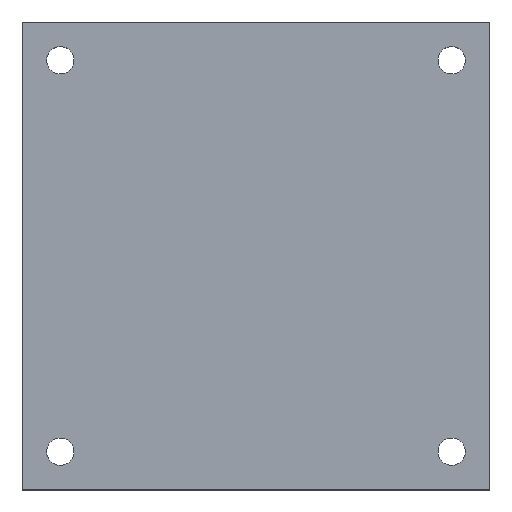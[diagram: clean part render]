
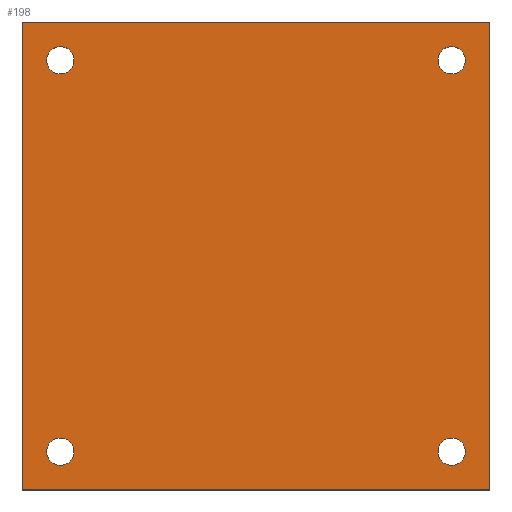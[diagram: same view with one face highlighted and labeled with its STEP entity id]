
A CAD part, top view. The second image highlights one B-rep face of the part: STEP entity #198.
In plain terms, the highlighted planar face has unit normal (0, 0, 1).
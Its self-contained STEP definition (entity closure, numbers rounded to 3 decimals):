
#42 = VERTEX_POINT('',#43);
#43 = CARTESIAN_POINT('',(55.,-55.,0.84));
#49 = EDGE_CURVE('',#42,#50,#52,.T.);
#50 = VERTEX_POINT('',#51);
#51 = CARTESIAN_POINT('',(0.,-55.,0.84));
#52 = LINE('',#53,#54);
#53 = CARTESIAN_POINT('',(55.,-55.,0.84));
#54 = VECTOR('',#55,1.);
#55 = DIRECTION('',(-1.,0.,0.));
#82 = VERTEX_POINT('',#83);
#83 = CARTESIAN_POINT('',(55.,0.,0.84));
#89 = EDGE_CURVE('',#82,#42,#90,.T.);
#90 = LINE('',#91,#92);
#91 = CARTESIAN_POINT('',(55.,0.,0.84));
#92 = VECTOR('',#93,1.);
#93 = DIRECTION('',(0.,-1.,0.));
#111 = EDGE_CURVE('',#50,#112,#114,.T.);
#112 = VERTEX_POINT('',#113);
#113 = CARTESIAN_POINT('',(0.,0.,0.84));
#114 = LINE('',#115,#116);
#115 = CARTESIAN_POINT('',(0.,-55.,0.84));
#116 = VECTOR('',#117,1.);
#117 = DIRECTION('',(0.,1.,0.));
#198 = ADVANCED_FACE('',(#199,#210,#221,#232,#243),#254,.T.);
#199 = FACE_BOUND('',#200,.T.);
#200 = EDGE_LOOP('',(#201,#202,#203,#209));
#201 = ORIENTED_EDGE('',*,*,#49,.F.);
#202 = ORIENTED_EDGE('',*,*,#89,.F.);
#203 = ORIENTED_EDGE('',*,*,#204,.F.);
#204 = EDGE_CURVE('',#112,#82,#205,.T.);
#205 = LINE('',#206,#207);
#206 = CARTESIAN_POINT('',(0.,0.,0.84));
#207 = VECTOR('',#208,1.);
#208 = DIRECTION('',(1.,0.,0.));
#209 = ORIENTED_EDGE('',*,*,#111,.F.);
#210 = FACE_BOUND('',#211,.T.);
#211 = EDGE_LOOP('',(#212));
#212 = ORIENTED_EDGE('',*,*,#213,.T.);
#213 = EDGE_CURVE('',#214,#214,#216,.T.);
#214 = VERTEX_POINT('',#215);
#215 = CARTESIAN_POINT('',(4.5,-52.1,0.84));
#216 = CIRCLE('',#217,1.6);
#217 = AXIS2_PLACEMENT_3D('',#218,#219,#220);
#218 = CARTESIAN_POINT('',(4.5,-50.5,0.84));
#219 = DIRECTION('',(-0.,0.,-1.));
#220 = DIRECTION('',(-0.,-1.,0.));
#221 = FACE_BOUND('',#222,.T.);
#222 = EDGE_LOOP('',(#223));
#223 = ORIENTED_EDGE('',*,*,#224,.T.);
#224 = EDGE_CURVE('',#225,#225,#227,.T.);
#225 = VERTEX_POINT('',#226);
#226 = CARTESIAN_POINT('',(50.5,-52.1,0.84));
#227 = CIRCLE('',#228,1.6);
#228 = AXIS2_PLACEMENT_3D('',#229,#230,#231);
#229 = CARTESIAN_POINT('',(50.5,-50.5,0.84));
#230 = DIRECTION('',(-0.,0.,-1.));
#231 = DIRECTION('',(-0.,-1.,0.));
#232 = FACE_BOUND('',#233,.T.);
#233 = EDGE_LOOP('',(#234));
#234 = ORIENTED_EDGE('',*,*,#235,.T.);
#235 = EDGE_CURVE('',#236,#236,#238,.T.);
#236 = VERTEX_POINT('',#237);
#237 = CARTESIAN_POINT('',(4.5,-6.1,0.84));
#238 = CIRCLE('',#239,1.6);
#239 = AXIS2_PLACEMENT_3D('',#240,#241,#242);
#240 = CARTESIAN_POINT('',(4.5,-4.5,0.84));
#241 = DIRECTION('',(-0.,0.,-1.));
#242 = DIRECTION('',(-0.,-1.,0.));
#243 = FACE_BOUND('',#244,.T.);
#244 = EDGE_LOOP('',(#245));
#245 = ORIENTED_EDGE('',*,*,#246,.T.);
#246 = EDGE_CURVE('',#247,#247,#249,.T.);
#247 = VERTEX_POINT('',#248);
#248 = CARTESIAN_POINT('',(50.5,-6.1,0.84));
#249 = CIRCLE('',#250,1.6);
#250 = AXIS2_PLACEMENT_3D('',#251,#252,#253);
#251 = CARTESIAN_POINT('',(50.5,-4.5,0.84));
#252 = DIRECTION('',(-0.,0.,-1.));
#253 = DIRECTION('',(-0.,-1.,0.));
#254 = PLANE('',#255);
#255 = AXIS2_PLACEMENT_3D('',#256,#257,#258);
#256 = CARTESIAN_POINT('',(0.,0.,0.84));
#257 = DIRECTION('',(0.,0.,1.));
#258 = DIRECTION('',(1.,0.,-0.));
